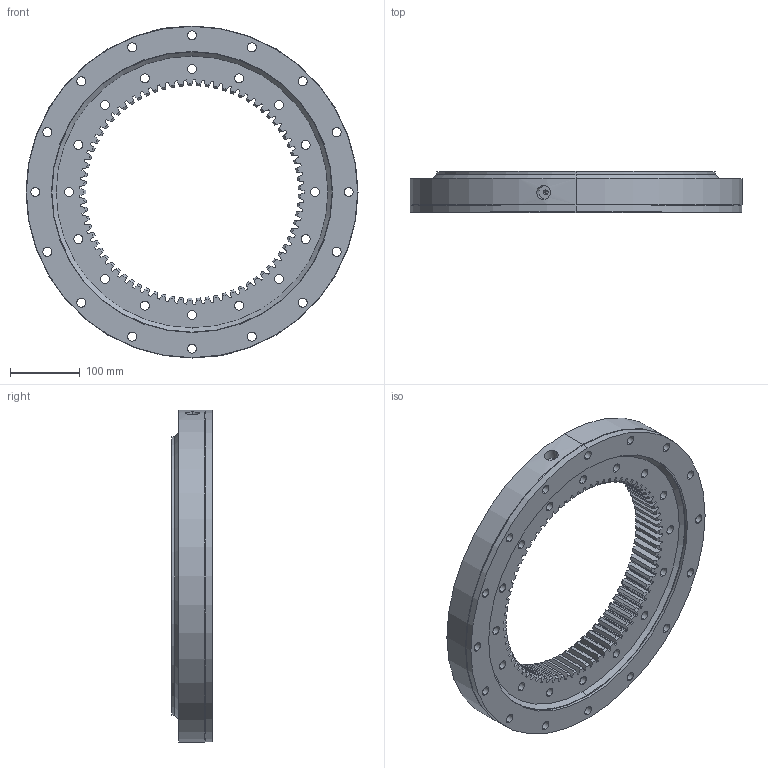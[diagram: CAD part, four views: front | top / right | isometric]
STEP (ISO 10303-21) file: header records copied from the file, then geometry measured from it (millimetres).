
FILE_DESCRIPTION (( 'STEP AP214' ), '1' );
FILE_NAME ('SM2116-1-0475AA.STEP', '2022-11-24T07:24:53', ( '' ), ( '' ), 'SwSTEP 2.0', 'SolidWorks 2020', '' );
FILE_SCHEMA (( 'AUTOMOTIVE_DESIGN' ));
Length unit declared in the file: millimetre
Products named in the file (1): SM2116-1-0475AA
Bounding box: 475 x 58 x 475 mm (x, y, z)
Volume: 4510401.4 mm3; surface area: 651364.3 mm2
Topology: 4 solids, 4 shells, 663 faces, 1933 edges, 1286 vertices
Faces by surface type: plane 324, cylinder 173, cone 166
Entity records: 22760 total; most frequent: CARTESIAN_POINT 5271, ORIENTED_EDGE 3866, DIRECTION 3372, EDGE_CURVE 1933, VERTEX_POINT 1286, AXIS2_PLACEMENT_3D 1170, VECTOR 1032, LINE 1032
